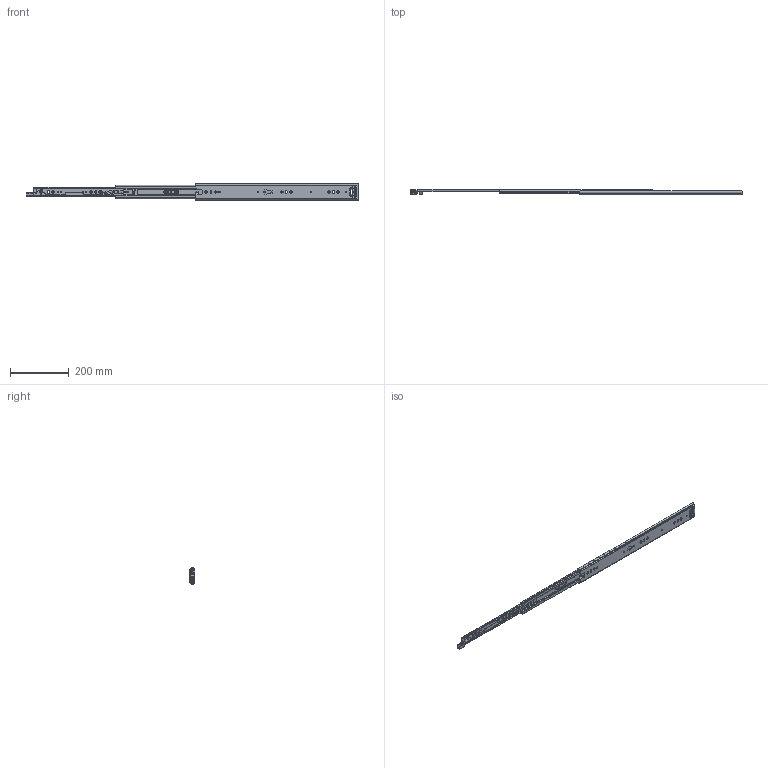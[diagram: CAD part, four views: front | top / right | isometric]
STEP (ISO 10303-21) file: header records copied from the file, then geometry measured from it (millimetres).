
FILE_DESCRIPTION((''),'2;1');
FILE_NAME('KP-57-01ZUZHUANGTU-22_ASM','2022-08-17T',('jishu015'),(''),'PRO/ENGINEER BY PARAMETRIC TECHNOLOGY CORPORATION, 2010280','PRO/ENGINEER BY PARAMETRIC TECHNOLOGY CORPORATION, 2010280','');
FILE_SCHEMA(('CONFIG_CONTROL_DESIGN'));
Products named in the file (22): KP-57-01WEIKE-18_______________; 1057WEIJIAO_______________; WAIKE______________ASM; KP-57-01ZHONGGUI-26__; ZHONGGUIPEIJIAN-11_____________; ZHONGGUISUOKOU-11_____________; KP-57-01ZHONGGUI-26___ASM; 1057XIAOZHUJIA_______________; 1057-5-6GANZHU_______________; 1057XIAOZHUJIA-14GE26___ASM; KP-57-01NEIGUI-22; PJ-57-08_____________; DIAOPIAN-11_____________; 50XINSUOKOU-1_____________; TANHUANG_____________; 1053-3SBANJI122___________; JIAO11___________; KP-57-01NEIGUI-22_ASM; 1053ZHUTIAO-275__; 53-5-6GANZHU___________________; 1053ZHUTIAO-175MM______________ASM; KP-57-01ZUZHUANGTU-22_ASM
Assembly tree (65 placements, depth 3):
  KP-57-01ZUZHUANGTU-22_ASM
    WAIKE______________ASM
      KP-57-01WEIKE-18_______________
      1057WEIJIAO_______________
    KP-57-01ZHONGGUI-26___ASM
      KP-57-01ZHONGGUI-26__
      ZHONGGUIPEIJIAN-11_____________
      ZHONGGUISUOKOU-11_____________
    1057XIAOZHUJIA-14GE26___ASM
      1057XIAOZHUJIA_______________
      1057-5-6GANZHU_______________  x36
    KP-57-01NEIGUI-22_ASM
      KP-57-01NEIGUI-22
      PJ-57-08_____________
      DIAOPIAN-11_____________
      50XINSUOKOU-1_____________
      TANHUANG_____________
      1053-3SBANJI122___________
      JIAO11___________
    1053ZHUTIAO-175MM______________ASM  x2
      1053ZHUTIAO-275__
      53-5-6GANZHU___________________
Bounding box: 1126.92 x 19 x 57.67 mm (x, y, z)
Volume: 240842.5 mm3; surface area: 261564.9 mm2
Topology: 71 solids, 71 shells, 1984 faces, 5669 edges, 3552 vertices
Faces by surface type: cylinder 834, plane 829, sphere 119, bspline 94, cone 60, torus 25, extrusion 23
Entity records: 65267 total; most frequent: CARTESIAN_POINT 16539, ORIENTED_EDGE 10306, DIRECTION 10008, EDGE_CURVE 5153, AXIS2_PLACEMENT_3D 3458, VERTEX_POINT 3324, VECTOR 3092, LINE 3069
